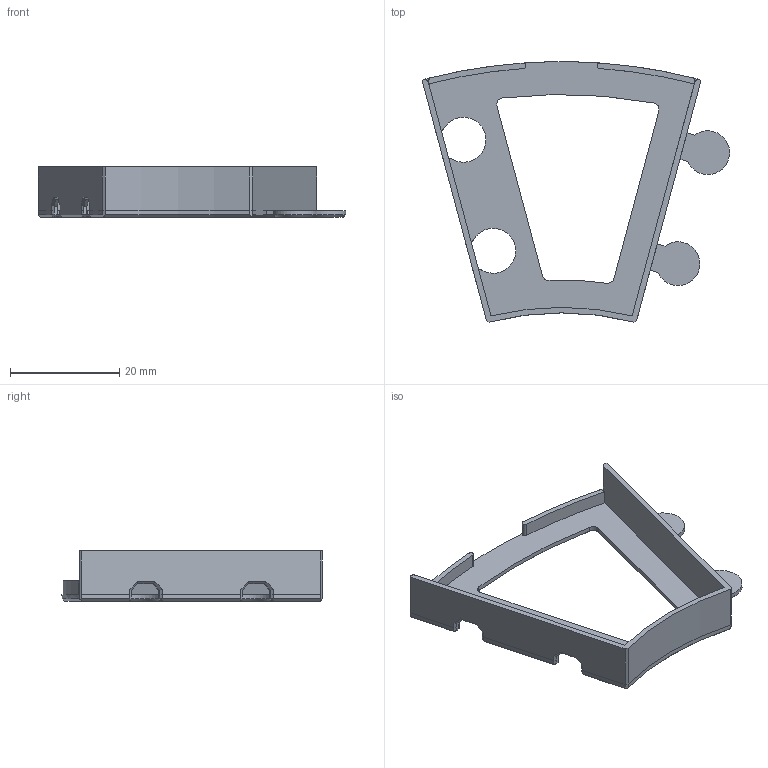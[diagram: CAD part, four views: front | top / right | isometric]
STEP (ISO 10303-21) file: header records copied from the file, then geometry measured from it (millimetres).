
FILE_DESCRIPTION(('FreeCAD Model'),'2;1');
FILE_NAME( 'D:/GitRepo/CAD-Design/FreeCAD/Spool_Organizer/Frame_30.V03.step', '2017-11-26T14:56:41',('Author'),(''), 'Open CASCADE STEP processor 7.1','FreeCAD','Unknown');
FILE_SCHEMA(('AUTOMOTIVE_DESIGN { 1 0 10303 214 1 1 1 1 }'));
Length unit declared in the file: millimetre
Products named in the file (1): Frame_A.10.Chamfer
Bounding box: 56.13 x 47.56 x 9.2 mm (x, y, z)
Volume: 2280.6 mm3; surface area: 4557.9 mm2
Topology: 1 solids, 1 shells, 133 faces, 333 edges, 198 vertices
Faces by surface type: plane 87, cylinder 28, cone 16, bspline 2
Entity records: 8589 total; most frequent: CARTESIAN_POINT 2035, DIRECTION 1191, LINE 750, VECTOR 750, ORIENTED_EDGE 666, PCURVE 666, DEFINITIONAL_REPRESENTATION 666, EDGE_CURVE 333
